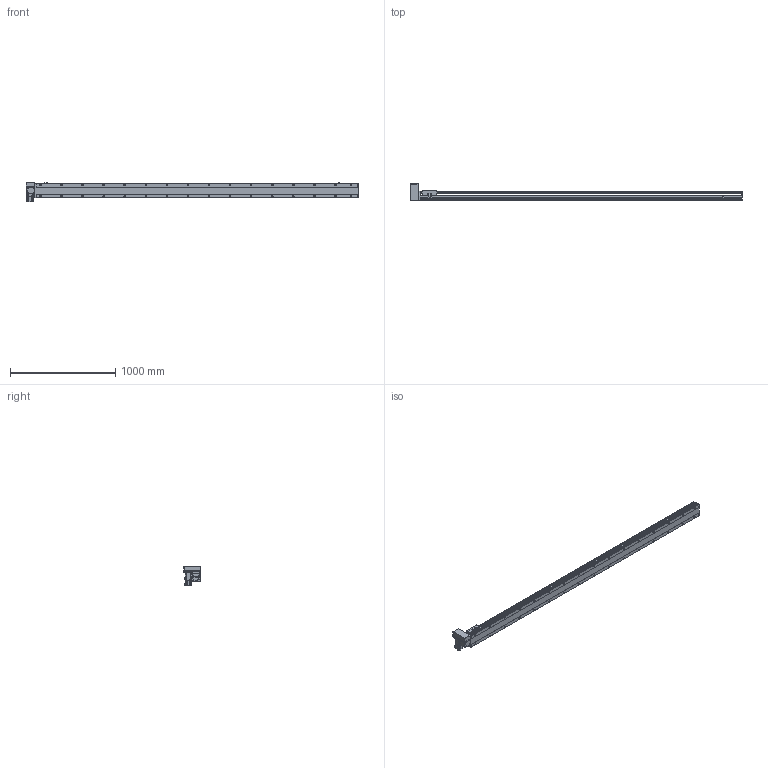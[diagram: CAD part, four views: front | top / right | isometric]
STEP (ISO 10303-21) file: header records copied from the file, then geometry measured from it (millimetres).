
FILE_DESCRIPTION(/* description */ ('STEP AP214'),/* implementation_level */ '2;1');
FILE_NAME(/* name */ 'PBS140S-P40-S2800-RU-T40-C1-N(0)',/* time_stamp */ '2022-06-09T02:57:23+02:00',/* author */ ('License CC BY-ND 4.0'),/* organization */ ('CADENAS'),/* preprocessor_version */ 'ST-DEVELOPER v18.102',/* originating_system */ 'PARTsolutions',/* authorisation */ ' ');
FILE_SCHEMA (('AUTOMOTIVE_DESIGN {1 0 10303 214 3 1 1}'));
Length unit declared in the file: millimetre
Products named in the file (7): PBS140S-P40-S2800-RU-T40-C1-N(0); PBS140S_sensor; PBS140S_plant; PBS140S_sliser; T40-p1; PBS140ST-RU_motors; PBS140S-S2800()_body
Assembly tree (8 placements, depth 2):
  PBS140S-P40-S2800-RU-T40-C1-N(0)
    PBS140S_sensor  x3
    PBS140S_plant
    PBS140S_sliser
    T40-p1
    PBS140ST-RU_motors
    PBS140S-S2800()_body
Bounding box: 3154 x 162.5 x 189.7 mm (x, y, z)
Volume: 15236492.7 mm3; surface area: 2560251.5 mm2
Topology: 8 solids, 8 shells, 1227 faces, 3231 edges, 2113 vertices
Faces by surface type: plane 750, cylinder 409, cone 58, sphere 8, torus 2
Full cylindrical faces by diameter (mm): 3.242 x4, 4 x2, 4.134 x4, 4.4 x8, 4.5 x2, 4.8 x4, 4.917 x40, 5.5 x7, 6 x2, 7 x34, 7.5 x8, 8 x12, 8.5 x4, 10.5 x32, 14 x1, 30 x2, 50 x2
Entity records: 35160 total; most frequent: CARTESIAN_POINT 6712, DIRECTION 5908, ORIENTED_EDGE 5542, EDGE_CURVE 2771, AXIS2_PLACEMENT_3D 2099, VERTEX_POINT 1945, LINE 1710, VECTOR 1710
